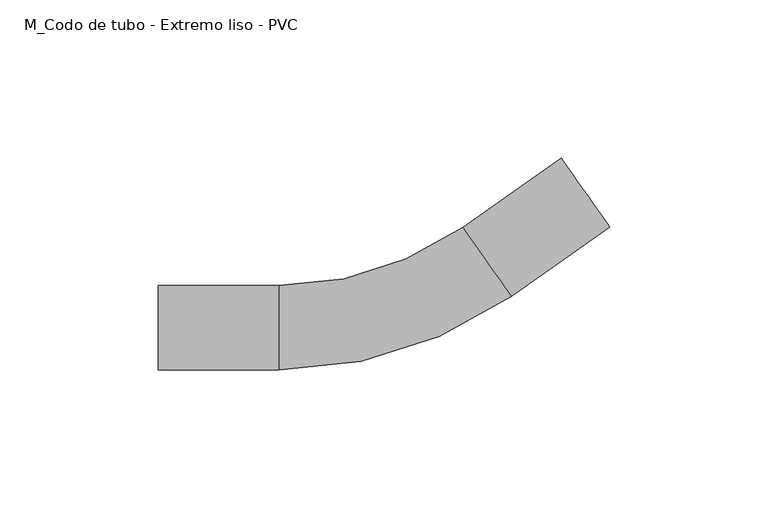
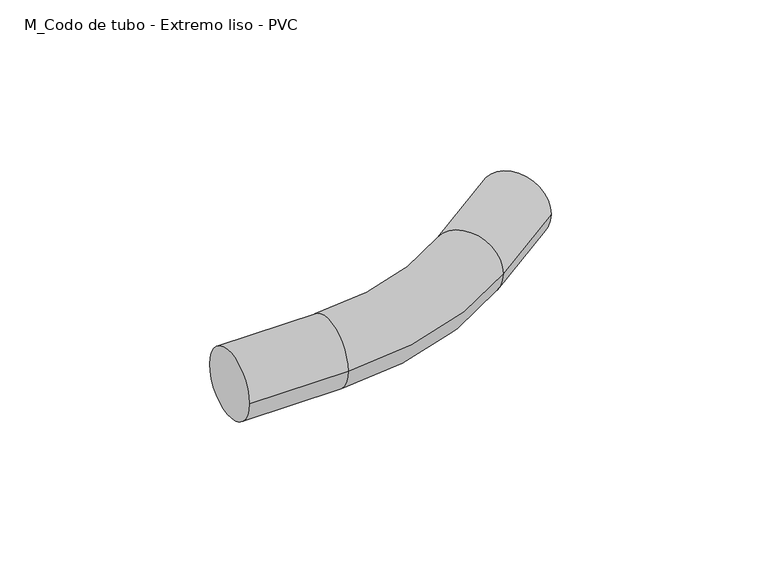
"""IFC4 building model written with IfcOpenShell, lengths in millimetres: cable carrier fitting geometry, M_Codo de tubo - Extremo liso - PVC : CODO ILUMINACION."""

from ifc_helpers import new_model, si_unit, point, frame, origin, place, context, project, spatial, circle_curve, ellipse_curve, trimmed, source, transform, mapped, element, save
from ifc_brep_helpers import plane_surface, cylinder_surface, revolved_surface, advanced_brep


def m_codo_de_tubo_extremo_liso_pvc_280a536f(model_context):
    return source(origin(), model_context, "Body", "AdvancedBrep", [
        advanced_brep(
        [(-74.2710988, -13.335, 0.0), (-74.2710988, 13.335, 0.0), (-36.1710988, -13.335, 0.0), (-36.1710988, 13.335, 0.0), (21.914201, 31.7165321, 0.0), (37.2574878, 9.9020312, 0.0), (68.4210605, 31.8210122, 0.0), (53.0777738, 53.6355132, 0.0)],
        [
            (0, 1, circle_curve(frame((-74.2710988, 0.0, 0.0), z_axis=(-1.0, 0.0, 0.0), x_axis=(0.0, 1.0, 0.0)), 13.335)),
            (1, 0, circle_curve(frame((-74.2710988, 0.0, 0.0), z_axis=(-1.0, 0.0, 0.0), x_axis=(0.0, 1.0, 0.0)), 13.335)),
            (0, 2),
            (2, 3, circle_curve(frame((-36.1710988, 0.0, 0.0), z_axis=(-1.0, 0.0, 0.0), x_axis=(0.0, 1.0, 0.0)), 13.335)),
            (3, 1),
            (3, 2, circle_curve(frame((-36.1710988, 0.0, 0.0), z_axis=(-1.0, 0.0, 0.0), x_axis=(0.0, 1.0, 0.0)), 13.335)),
            (4, 3, circle_curve(frame((-36.1710988, 114.3, 0.0), z_axis=(0.0, 0.0, -1.0), x_axis=(0.0, -1.0, 0.0)), 100.965)),
            (2, 5, circle_curve(frame((-36.1710988, 114.3, 0.0), z_axis=(0.0, 0.0, 1.0), x_axis=(0.0, -1.0, 0.0)), 127.635)),
            (5, 4, circle_curve(frame((29.5858444, 20.8092816, 0.0), z_axis=(-0.8179415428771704, -0.5753013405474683, 0.0), x_axis=(-0.5753013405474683, 0.8179415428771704, 0.0)), 13.335)),
            (4, 5, circle_curve(frame((29.5858444, 20.8092816, 0.0), z_axis=(-0.8179415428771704, -0.5753013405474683, 0.0), x_axis=(-0.5753013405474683, 0.8179415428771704, 0.0)), 13.335)),
            (6, 7, circle_curve(frame((60.7494172, 42.7282627, 0.0), z_axis=(0.8179415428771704, 0.5753013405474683, 0.0), x_axis=(-0.5753013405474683, 0.8179415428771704, 0.0)), 13.335)),
            (7, 6, circle_curve(frame((60.7494172, 42.7282627, 0.0), z_axis=(0.8179415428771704, 0.5753013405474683, 0.0), x_axis=(-0.5753013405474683, 0.8179415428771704, 0.0)), 13.335)),
            (5, 6),
            (7, 4),
        ],
        [
            plane_surface(frame((-74.2710988, 0.0, 0.0), z_axis=(-1.0, 0.0, 0.0), x_axis=(0.0, 0.0, 1.0))),
            cylinder_surface(frame((-74.2710988, 0.0, 0.0), z_axis=(-1.0, 0.0, 0.0), x_axis=(0.0, 1.0, 0.0)), 13.335),
            revolved_surface(trimmed(ellipse_curve(frame((-36.1710988, 0.0, 0.0), z_axis=(-1.0, 0.0, 0.0), x_axis=(0.0, 1.0, 0.0)), 13.335, 13.335), [point((-36.1710988, -13.335, 0.0))], [point((-36.1710988, 13.335, 0.0))], True, "CARTESIAN"), (-36.1710988, 114.3, 0.0), (0.0, 0.0, 1.0)),
            revolved_surface(trimmed(ellipse_curve(frame((-36.1710988, 0.0, 0.0), z_axis=(-1.0, 0.0, 0.0), x_axis=(0.0, 1.0, 0.0)), 13.335, 13.335), [point((-36.1710988, 13.335, 0.0))], [point((-36.1710988, -13.335, 0.0))], True, "CARTESIAN"), (-36.1710988, 114.3, 0.0), (0.0, 0.0, 1.0)),
            plane_surface(frame((60.7494172, 42.7282627, 0.0), z_axis=(0.8179415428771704, 0.5753013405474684, 0.0), x_axis=(0.0, 0.0, 1.0))),
            cylinder_surface(frame((29.5858444, 20.8092816, 0.0), z_axis=(-0.8179415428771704, -0.5753013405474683, 0.0), x_axis=(-0.5753013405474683, 0.8179415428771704, 0.0)), 13.335),
        ],
        [
            (0, [[1, 2]]),
            (1, [[-1, 3, 4, 5]]),
            (1, [[-2, -5, 6, -3]]),
            (2, [[7, -4, 8, 9]]),
            (3, [[-8, -6, -7, 10]]),
            (4, [[11, 12]]),
            (5, [[-9, 13, -12, 14]]),
            (5, [[-10, -14, -11, -13]]),
        ],
    ),
    ])


if __name__ == "__main__":
    model = new_model("IFC4")
    model_context = context("Model", 3, world=origin())
    ifc_project = project(units=[si_unit("LENGTHUNIT", "METRE", prefix="MILLI")], contexts=[model_context])
    site = spatial("IfcSite", under=ifc_project)
    building = spatial("IfcBuilding", under=site)
    placement = place(None, origin())
    m_codo_de_tubo_extremo_liso_pvc_shape = m_codo_de_tubo_extremo_liso_pvc_280a536f(model_context)
    element("IfcCableCarrierFitting", 1, ObjectType="M_Codo de tubo - Extremo liso - PVC : CODO ILUMINACION", at=placement, inside=building, context=model_context, shape_type="MappedRepresentation", body=[
        mapped(m_codo_de_tubo_extremo_liso_pvc_shape, transform((0.0, 0.0, 0.0), x_axis=(1.0, 0.0, 0.0), y_axis=(0.0, 1.0, 0.0), z_axis=(0.0, 0.0, 1.0))),
    ])
    save(model, "model.ifc")
